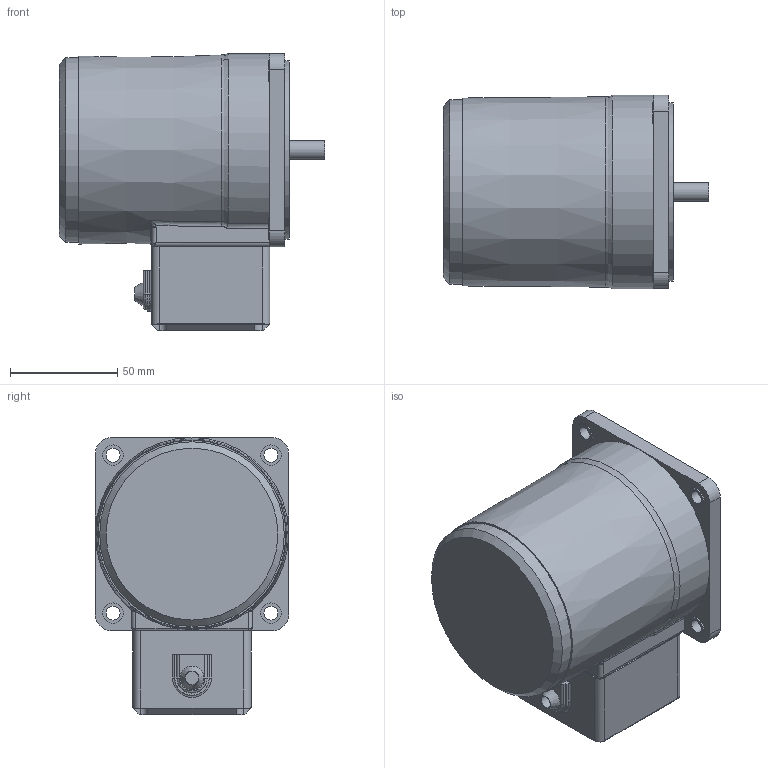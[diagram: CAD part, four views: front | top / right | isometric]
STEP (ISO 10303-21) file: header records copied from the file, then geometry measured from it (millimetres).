
FILE_DESCRIPTION((''),'2;1');
FILE_NAME('D:\STP파일\40W MOTOR\T1 BOX TYPE\S9I40G-T1.stp','2013-05-20T16:55:44',('leebh'),(''),'Autodesk Inventor 2011','Autodesk Inventor 2011','');
FILE_SCHEMA(('AUTOMOTIVE_DESIGN { 1 0 10303 214 1 1 1 1 }'));
Length unit declared in the file: millimetre
Products named in the file (1): 부품3
Bounding box: 123.5 x 90 x 129 mm (x, y, z)
Volume: 777164.7 mm3; surface area: 58121.5 mm2
Topology: 1 solids, 2 shells, 148 faces, 368 edges, 232 vertices
Faces by surface type: plane 68, cylinder 55, bspline 18, torus 4, cone 3
Full cylindrical faces by diameter (mm): 6.5 x4, 8 x1, 8.7 x1, 9.5 x4, 40 x1, 83 x1, 86 x1
Entity records: 4821 total; most frequent: CARTESIAN_POINT 1351, DIRECTION 717, ORIENTED_EDGE 690, EDGE_CURVE 345, AXIS2_PLACEMENT_3D 271, VERTEX_POINT 230, EDGE_LOOP 185, VECTOR 175
